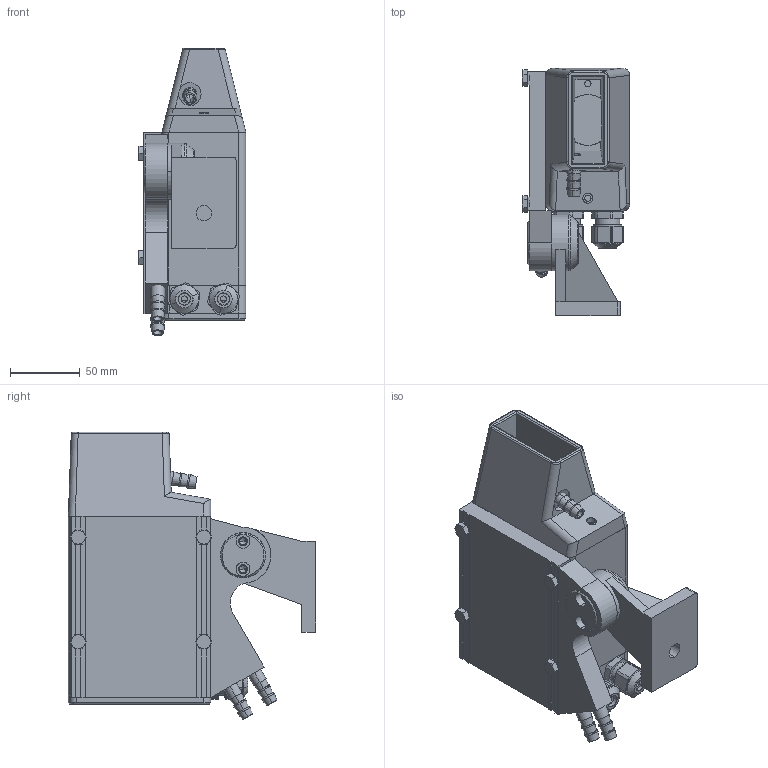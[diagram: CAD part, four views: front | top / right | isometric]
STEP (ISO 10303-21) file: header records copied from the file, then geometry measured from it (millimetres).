
FILE_DESCRIPTION (( 'STEP AP214' ), '1' );
FILE_NAME ('V series JB STEP.STEP', '2013-05-29T08:02:28', ( '' ), ( '' ), 'SwSTEP 2.0', 'SolidWorks 2011', '' );
FILE_SCHEMA (( 'AUTOMOTIVE_DESIGN' ));
Length unit declared in the file: millimetre
Products named in the file (16): Platen MD_??; Housing Z MD; Tubus V-Y; AGRO-EX1571.09.060-4.5_Default; AGRO-EX1571.09.060-4.5_Block9_page4_14_model1_comp1_EX1571.09.085.01; AGRO-EX1571.09.060-4.5_Block9_page4_14_model1_comp2_1571.09.02; AGRO-EX1571.09.060-4.5_Block9_page4_14_model1_comp3_1000.17.060.03; ref delta; ensemble joue; Pied VZ; M6x20_M6x20; Raccord eau A15023; A14846 Articulation; Joue refroidie y v z B14786; A13506_??; V series JB STEP
Assembly tree (21 placements, depth 3):
  V series JB STEP
    Tubus V-Y
    A13506_??
    Platen MD_??
    ref delta
    Housing Z MD
    Raccord eau A15023
    AGRO-EX1571.09.060-4.5_Default  x2
      AGRO-EX1571.09.060-4.5_Block9_page4_14_model1_comp2_1571.09.02
      AGRO-EX1571.09.060-4.5_Block9_page4_14_model1_comp1_EX1571.09.085.01
      AGRO-EX1571.09.060-4.5_Block9_page4_14_model1_comp3_1000.17.060.03
    ensemble joue
      M6x20_M6x20  x4
      Joue refroidie y v z B14786
      Raccord eau A15023  x2
      A14846 Articulation
      Pied VZ
Bounding box: 77.01 x 177 x 205.71 mm (x, y, z)
Volume: 1190191.3 mm3; surface area: 205512 mm2
Topology: 21 solids, 24 shells, 1458 faces, 3636 edges, 2343 vertices
Faces by surface type: plane 839, cylinder 310, cone 143, bspline 142, torus 24
Entity records: 42662 total; most frequent: CARTESIAN_POINT 11272, ORIENTED_EDGE 6358, DIRECTION 5667, EDGE_CURVE 3179, LINE 2273, VECTOR 2273, VERTEX_POINT 2080, AXIS2_PLACEMENT_3D 1697
